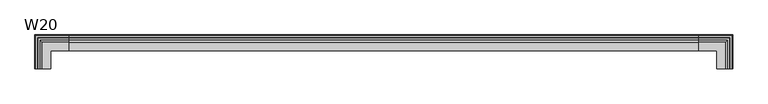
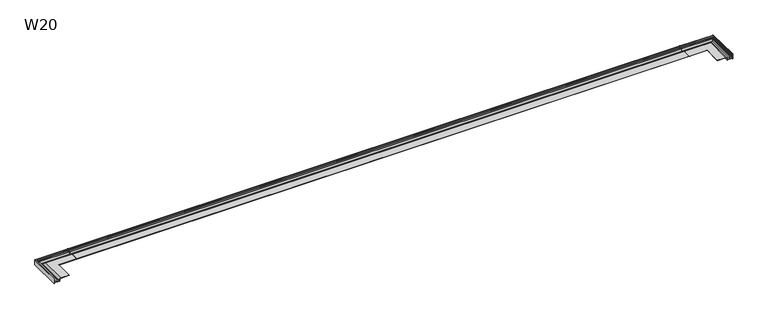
"""IFC4 building model written with IfcOpenShell, lengths in millimetres: proxy geometry, W20 Profil okapowy prosty : W20."""

from ifc_helpers import new_model, si_unit, point, frame, frame_2d, origin, place, context, project, spatial, polyline, circle_curve, ellipse_curve, trimmed, segment, composite_curve, outline, extrude, source, transform, mapped, element, save
from ifc_brep_helpers import plane_surface, cylinder_surface, revolved_surface, advanced_brep


def w20_fb63c288(model_context):
    return source(origin(), model_context, "Body", "SolidModel", [
        advanced_brep(
        [(4874.0, 0.1599998, -5.7558512), (4874.0, 0.1599998, -1.9994483), (4874.0, -1.2000002, -1.92), (4874.0, -63.8400002, -1.92), (4874.0, -63.8400002, 0.0), (4874.0, -1.2000002, 0.0), (4874.0, 12.3999998, -13.6), (4874.0, 12.3999998, -18.4), (4874.0, 13.9999998, -20.0), (4874.0, 31.1890625, -20.0), (4874.0, 31.1890625, 1.12487), (4874.0, 32.3890625, 1.12487), (4874.0, 32.3890625, -20.0), (4874.0, 51.1999998, -20.0), (4874.0, 51.1999998, -16.8), (4874.0, 48.6399998, -16.8), (4874.0, 48.6399998, -15.6), (4874.0, 51.1999998, -15.6), (4874.0, 51.1999998, -2.456), (4874.0, 48.6399998, -2.456), (4874.0, 48.6399998, -1.256), (4874.0, 51.1999998, -1.256), (4874.0, 51.1999998, 9.434066), (4874.0, 50.6947367, 10.0597224), (4874.0, 50.9473682, 11.2328282), (4874.0, 52.3999998, 9.434066), (4874.0, 52.3999998, -27.6828427), (4874.0, 51.1983148, -26.4811576), (4874.0, 51.1983148, -21.92), (4874.0, 11.6799998, -21.92), (4874.0, 11.6799998, -25.0068739), (4874.0, 10.4799998, -24.2657388), (4874.0, 10.4799998, -13.6), (4874.0, 1.1999998, -2.1692345), (4874.0, 1.1999998, -5.7558512), (5074.1599998, -200.0, -5.7558512), (5075.1999998, -200.0, -5.7558512), (5075.1999998, -200.0, -2.1692345), (5084.4799998, -200.0, -13.6), (5084.4799998, -200.0, -24.2657388), (5085.6799998, -200.0, -25.0068739), (5085.6799998, -200.0, -21.92), (5125.1983148, -200.0, -21.92), (5125.1983148, -200.0, -26.4811576), (5126.3999998, -200.0, -27.6828427), (5126.3999998, -200.0, 9.434066), (5124.9473682, -200.0, 11.2328282), (5124.6947367, -200.0, 10.0597224), (5125.1999998, -200.0, 9.434066), (5125.1999998, -200.0, -1.256), (5122.6399998, -200.0, -1.256), (5122.6399998, -200.0, -2.456), (5125.1999998, -200.0, -2.456), (5125.1999998, -200.0, -15.6), (5122.6399998, -200.0, -15.6), (5122.6399998, -200.0, -16.8), (5125.1999998, -200.0, -16.8), (5125.1999998, -200.0, -20.0), (5106.3890625, -200.0, -20.0), (5106.3890625, -200.0, 1.12487), (5105.1890625, -200.0, 1.12487), (5105.1890625, -200.0, -20.0), (5087.9999998, -200.0, -20.0), (5086.3999998, -200.0, -18.4), (5086.3999998, -200.0, -13.6), (5072.7999998, -200.0, 0.0), (5010.1599998, -200.0, 0.0), (5010.1599998, -200.0, -1.92), (5072.7999998, -200.0, -1.92), (5074.1599998, -200.0, -1.9994483), (5075.1999998, 1.1999998, -2.1692345), (5075.1999998, 1.1999998, -5.7558512), (5074.1599998, 0.1599998, -5.7558512), (5074.1599998, 0.1599998, -1.9994483), (5072.7999998, -1.2000002, -1.92), (5010.1599998, -63.8400002, -1.92), (5010.1599998, -63.8400002, 0.0), (5072.7999998, -1.2000002, 0.0), (5086.3999998, 12.3999998, -13.6), (5086.3999998, 12.3999998, -18.4), (5087.9999998, 13.9999998, -20.0), (5125.1999998, 51.1999998, -20.0), (5125.1999998, 51.1999998, -16.8), (5122.6399998, 48.6399998, -16.8), (5122.6399998, 48.6399998, -15.6), (5125.1999998, 51.1999998, -15.6), (5125.1999998, 51.1999998, -2.456), (5122.6399998, 48.6399998, -2.456), (5122.6399998, 48.6399998, -1.256), (5125.1999998, 51.1999998, -1.256), (5125.1999998, 51.1999998, 9.434066), (5124.6947367, 50.6947367, 10.0597224), (5124.9473682, 50.9473682, 11.2328282), (5126.3999998, 52.3999998, 9.434066), (5126.3999998, 52.3999998, -27.6828427), (5125.1983148, 51.1983148, -26.4811576), (5125.1983148, 51.1983148, -21.92), (5085.6799998, 11.6799998, -21.92), (5085.6799998, 11.6799998, -25.0068739), (5084.4799998, 10.4799998, -24.2657388), (5084.4799998, 10.4799998, -13.6), (5105.1890625, 31.1890625, -20.0), (5105.1890625, 31.1890625, 1.12487), (5106.3890625, 32.3890625, 1.12487), (5106.3890625, 32.3890625, -20.0)],
        [
            (0, 1),
            (1, 2, circle_curve(frame((4874.0, -1.2000002, -13.6), z_axis=(1.0, 0.0, 0.0), x_axis=(0.0, -1.0, 0.0)), 11.68)),
            (2, 3),
            (3, 4),
            (4, 5),
            (5, 6, circle_curve(frame((4874.0, -1.2000002, -13.6), z_axis=(-1.0, 0.0, 0.0), x_axis=(0.0, -1.0, 0.0)), 13.6)),
            (6, 7),
            (7, 8, circle_curve(frame((4874.0, 13.9999998, -18.4), z_axis=(1.0, 0.0, 0.0), x_axis=(0.0, -1.0, 0.0)), 1.6)),
            (8, 9),
            (9, 10),
            (10, 11),
            (11, 12),
            (12, 13),
            (13, 14),
            (14, 15),
            (15, 16),
            (16, 17),
            (17, 18),
            (18, 19),
            (19, 20),
            (20, 21),
            (21, 22),
            (22, 23, circle_curve(frame((4874.0, 50.5599998, 9.434066), z_axis=(1.0, 0.0, 0.0), x_axis=(0.0, -1.0, 0.0)), 0.64)),
            (23, 24),
            (24, 25, circle_curve(frame((4874.0, 50.5599998, 9.434066), z_axis=(-1.0, 0.0, 0.0), x_axis=(0.0, -1.0, 0.0)), 1.84)),
            (25, 26),
            (26, 27),
            (27, 28),
            (28, 29),
            (29, 30),
            (30, 31),
            (31, 32),
            (32, 33, circle_curve(frame((4874.0, -1.2000002, -13.6), z_axis=(1.0, 0.0, 0.0), x_axis=(0.0, -1.0, 0.0)), 11.68)),
            (33, 34),
            (34, 0),
            (35, 36),
            (36, 37),
            (37, 38, circle_curve(frame((5072.7999998, -200.0, -13.6), z_axis=(0.0, 1.0, 0.0), x_axis=(-1.0, 0.0, 0.0)), 11.68)),
            (38, 39),
            (39, 40),
            (40, 41),
            (41, 42),
            (42, 43),
            (43, 44),
            (44, 45),
            (45, 46, circle_curve(frame((5124.5599998, -200.0, 9.434066), z_axis=(0.0, -1.0, 0.0), x_axis=(-1.0, 0.0, 0.0)), 1.84)),
            (46, 47),
            (47, 48, circle_curve(frame((5124.5599998, -200.0, 9.434066), z_axis=(0.0, 1.0, 0.0), x_axis=(-1.0, 0.0, 0.0)), 0.64)),
            (48, 49),
            (49, 50),
            (50, 51),
            (51, 52),
            (52, 53),
            (53, 54),
            (54, 55),
            (55, 56),
            (56, 57),
            (57, 58),
            (58, 59),
            (59, 60),
            (60, 61),
            (61, 62),
            (62, 63, circle_curve(frame((5087.9999998, -200.0, -18.4), z_axis=(0.0, 1.0, 0.0), x_axis=(-1.0, 0.0, 0.0)), 1.6)),
            (63, 64),
            (64, 65, circle_curve(frame((5072.7999998, -200.0, -13.6), z_axis=(0.0, -1.0, 0.0), x_axis=(-1.0, 0.0, 0.0)), 13.6)),
            (65, 66),
            (66, 67),
            (67, 68),
            (68, 69, circle_curve(frame((5072.7999998, -200.0, -13.6), z_axis=(0.0, 1.0, 0.0), x_axis=(-1.0, 0.0, 0.0)), 11.68)),
            (69, 35),
            (33, 70),
            (70, 71),
            (71, 34),
            (71, 36),
            (35, 72),
            (72, 0),
            (72, 73),
            (73, 1),
            (70, 37),
            (69, 73),
            (73, 74, ellipse_curve(frame((5072.7999998, -1.2000002, -13.6), z_axis=(0.7071067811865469, -0.707106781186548, 0.0), x_axis=(0.7071067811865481, 0.7071067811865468, 0.0)), 16.5180144, 11.68)),
            (74, 2),
            (74, 68),
            (67, 75),
            (75, 3),
            (75, 76),
            (76, 4),
            (76, 66),
            (65, 77),
            (77, 5),
            (77, 78, ellipse_curve(frame((5072.7999998, -1.2000002, -13.6), z_axis=(-0.7071067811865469, 0.707106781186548, 0.0), x_axis=(-0.7071067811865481, -0.7071067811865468, 0.0)), 19.2333044, 13.6)),
            (78, 6),
            (78, 79),
            (79, 7),
            (79, 80, ellipse_curve(frame((5087.9999998, 13.9999998, -18.4), z_axis=(0.7071067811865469, -0.707106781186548, 0.0), x_axis=(0.7071067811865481, 0.7071067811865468, 0.0)), 2.2627417, 1.6)),
            (80, 8),
            (13, 81),
            (81, 82),
            (82, 14),
            (82, 56),
            (55, 83),
            (83, 15),
            (83, 84),
            (84, 16),
            (84, 54),
            (53, 85),
            (85, 17),
            (85, 86),
            (86, 18),
            (86, 52),
            (51, 87),
            (87, 19),
            (87, 88),
            (88, 20),
            (88, 50),
            (49, 89),
            (89, 21),
            (89, 90),
            (90, 22),
            (90, 91, ellipse_curve(frame((5124.5599998, 50.5599998, 9.434066), z_axis=(0.7071067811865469, -0.707106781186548, 0.0), x_axis=(0.7071067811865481, 0.7071067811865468, 0.0)), 0.9050967, 0.64)),
            (91, 23),
            (91, 92),
            (92, 24),
            (92, 93, ellipse_curve(frame((5124.5599998, 50.5599998, 9.434066), z_axis=(-0.7071067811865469, 0.707106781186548, 0.0), x_axis=(-0.7071067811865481, -0.7071067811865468, 0.0)), 2.602153, 1.84)),
            (93, 25),
            (93, 94),
            (94, 26),
            (94, 95),
            (95, 27),
            (95, 96),
            (96, 28),
            (96, 42),
            (41, 97),
            (97, 29),
            (97, 98),
            (98, 30),
            (98, 99),
            (99, 31),
            (99, 100),
            (100, 32),
            (100, 70, ellipse_curve(frame((5072.7999998, -1.2000002, -13.6), z_axis=(0.7071067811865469, -0.707106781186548, 0.0), x_axis=(0.7071067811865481, 0.7071067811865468, 0.0)), 16.5180144, 11.68)),
            (64, 78),
            (63, 79),
            (62, 80),
            (81, 57),
            (48, 90),
            (47, 91),
            (46, 92),
            (45, 93),
            (44, 94),
            (43, 95),
            (40, 98),
            (39, 99),
            (38, 100),
            (61, 101),
            (101, 9),
            (101, 102),
            (102, 10),
            (102, 60),
            (59, 103),
            (103, 11),
            (103, 104),
            (104, 12),
            (104, 58),
        ],
        [
            plane_surface(frame((4874.0, 0.0, 1.5283075), z_axis=(-1.0, 0.0, 0.0), x_axis=(0.0, 0.0, 1.0))),
            plane_surface(frame((5074.0, -200.0, 1.5283075), z_axis=(0.0, -1.0, 0.0), x_axis=(0.0, 0.0, 1.0))),
            plane_surface(frame((4874.0, 1.1999998, -2.1692345), z_axis=(0.0, 1.0, 0.0), x_axis=(1.0, 0.0, 0.0))),
            plane_surface(frame((4874.0, 1.1999998, -5.7558512), z_axis=(0.0, 0.0, -1.0), x_axis=(1.0, 0.0, 0.0))),
            plane_surface(frame((4874.0, 0.1599998, -5.7558512), z_axis=(0.0, -1.0, 0.0), x_axis=(1.0, 0.0, 0.0))),
            plane_surface(frame((5075.1999998, 1.1999998, -2.1692345), z_axis=(1.0, 0.0, 0.0), x_axis=(0.0, -1.0, 0.0))),
            plane_surface(frame((5074.1599998, 0.1599998, -5.7558512), z_axis=(-1.0, 0.0, 0.0), x_axis=(0.0, -1.0, 0.0))),
            revolved_surface(polyline([(5084.479999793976, -12.8800002, -13.6), (4874.0, -12.8800002, -13.6)]), (4874.0, -1.2000002, -13.6), (1.0, 0.0, 0.0)),
            plane_surface(frame((4874.0, -1.2000002, -1.92), z_axis=(0.0, 0.0, -1.0), x_axis=(1.0, 0.0, 0.0))),
            plane_surface(frame((4874.0, -63.8400002, -1.92), z_axis=(0.0, -1.0, 0.0), x_axis=(1.0, 0.0, 0.0))),
            plane_surface(frame((4874.0, -63.8400002, 0.0), z_axis=(0.0, 0.0, 1.0), x_axis=(1.0, 0.0, 0.0))),
            cylinder_surface(frame((4874.0, -1.2000002, -13.6), z_axis=(-1.0, 0.0, 0.0), x_axis=(0.0, -1.0, 0.0)), 13.6),
            plane_surface(frame((4874.0, 12.3999998, -13.6), z_axis=(0.0, 1.0, 0.0), x_axis=(1.0, 0.0, 0.0))),
            revolved_surface(polyline([(5089.599999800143, 12.3999998, -18.4), (4874.0, 12.3999998, -18.4)]), (4874.0, 13.9999998, -18.4), (1.0, 0.0, 0.0)),
            plane_surface(frame((4874.0, 51.1999998, -20.0), z_axis=(0.0, -1.0, 0.0), x_axis=(1.0, 0.0, 0.0))),
            plane_surface(frame((4874.0, 51.1999998, -16.8), z_axis=(0.0, 0.0, -1.0), x_axis=(1.0, 0.0, 0.0))),
            plane_surface(frame((4874.0, 48.6399998, -16.8), z_axis=(0.0, -1.0, 0.0), x_axis=(1.0, 0.0, 0.0))),
            plane_surface(frame((4874.0, 48.6399998, -15.6), z_axis=(0.0, 0.0, 1.0), x_axis=(1.0, 0.0, 0.0))),
            plane_surface(frame((4874.0, 51.1999998, -15.6), z_axis=(0.0, -1.0, 0.0), x_axis=(1.0, 0.0, 0.0))),
            plane_surface(frame((4874.0, 51.1999998, -2.456), z_axis=(0.0, 0.0, -1.0), x_axis=(1.0, 0.0, 0.0))),
            plane_surface(frame((4874.0, 48.6399998, -2.456), z_axis=(0.0, -1.0, 0.0), x_axis=(1.0, 0.0, 0.0))),
            plane_surface(frame((4874.0, 48.6399998, -1.256), z_axis=(0.0, 0.0, 1.0), x_axis=(1.0, 0.0, 0.0))),
            plane_surface(frame((4874.0, 51.1999998, -1.256), z_axis=(0.0, -1.0, 0.0), x_axis=(1.0, 0.0, 0.0))),
            revolved_surface(polyline([(5125.199999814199, 49.9199998, 9.434066), (4874.0, 49.9199998, 9.434066)]), (4874.0, 50.5599998, 9.434066), (1.0, 0.0, 0.0)),
            plane_surface(frame((4874.0, 50.6947367, 10.0597224), z_axis=(0.0, -0.977588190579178, 0.21052631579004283), x_axis=(1.0, 0.0, 0.0))),
            cylinder_surface(frame((4874.0, 50.5599998, 9.434066), z_axis=(-1.0, 0.0, 0.0), x_axis=(0.0, -1.0, 0.0)), 1.84),
            plane_surface(frame((4874.0, 52.3999998, 9.434066), z_axis=(0.0, 1.0, 0.0), x_axis=(1.0, 0.0, 0.0))),
            plane_surface(frame((4874.0, 52.3999998, -27.6828427), z_axis=(0.0, -0.7071067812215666, -0.7071067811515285), x_axis=(1.0, 0.0, 0.0))),
            plane_surface(frame((4874.0, 51.1983148, -26.4811576), z_axis=(0.0, -1.0, 0.0), x_axis=(1.0, 0.0, 0.0))),
            plane_surface(frame((4874.0, 51.1983148, -21.92), z_axis=(0.0, 0.0, -1.0), x_axis=(1.0, 0.0, 0.0))),
            plane_surface(frame((4874.0, 11.6799998, -21.92), z_axis=(0.0, 1.0, 0.0), x_axis=(1.0, 0.0, 0.0))),
            plane_surface(frame((4874.0, 11.6799998, -25.0068739), z_axis=(0.0, -0.5254716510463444, -0.8508111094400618), x_axis=(1.0, 0.0, 0.0))),
            plane_surface(frame((4874.0, 10.4799998, -24.2657388), z_axis=(0.0, -1.0, 0.0), x_axis=(1.0, 0.0, 0.0))),
            revolved_surface(polyline([(5084.4799998, -12.8800002, -13.6), (4874.0, -12.8800002, -13.6)]), (4874.0, -1.2000002, -13.6), (1.0, 0.0, 0.0)),
            revolved_surface(polyline([(5061.119999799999, -200.0, -13.6), (5061.119999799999, 10.479999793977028, -13.6)]), (5072.7999998, 0.0, -13.6), (0.0, -1.0, 0.0)),
            plane_surface(frame((5010.1599998, -63.8400002, -1.92), z_axis=(-1.0, 0.0, 0.0), x_axis=(0.0, -1.0, 0.0))),
            cylinder_surface(frame((5072.7999998, 0.0, -13.6), z_axis=(0.0, 1.0, 0.0), x_axis=(-1.0, 0.0, 0.0)), 13.6),
            plane_surface(frame((5086.3999998, 12.3999998, -13.6), z_axis=(1.0, 0.0, 0.0), x_axis=(0.0, -1.0, 0.0))),
            revolved_surface(polyline([(5086.3999998, -200.0, -18.4), (5086.3999998, 15.599999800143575, -18.4)]), (5087.9999998, 0.0, -18.4), (0.0, -1.0, 0.0)),
            plane_surface(frame((5125.1999998, 51.1999998, -20.0), z_axis=(-1.0, 0.0, 0.0), x_axis=(0.0, -1.0, 0.0))),
            plane_surface(frame((5122.6399998, 48.6399998, -16.8), z_axis=(-1.0, 0.0, 0.0), x_axis=(0.0, -1.0, 0.0))),
            plane_surface(frame((5125.1999998, 51.1999998, -15.6), z_axis=(-1.0, 0.0, 0.0), x_axis=(0.0, -1.0, 0.0))),
            plane_surface(frame((5122.6399998, 48.6399998, -2.456), z_axis=(-1.0, 0.0, 0.0), x_axis=(0.0, -1.0, 0.0))),
            plane_surface(frame((5125.1999998, 51.1999998, -1.256), z_axis=(-1.0, 0.0, 0.0), x_axis=(0.0, -1.0, 0.0))),
            revolved_surface(polyline([(5123.9199997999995, -200.0, 9.434066), (5123.9199997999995, 51.199999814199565, 9.434066)]), (5124.5599998, 0.0, 9.434066), (0.0, -1.0, 0.0)),
            plane_surface(frame((5124.6947367, 50.6947367, 10.0597224), z_axis=(-0.977588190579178, 0.0, 0.21052631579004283), x_axis=(0.0, -1.0, 0.0))),
            cylinder_surface(frame((5124.5599998, 0.0, 9.434066), z_axis=(0.0, 1.0, 0.0), x_axis=(-1.0, 0.0, 0.0)), 1.84),
            plane_surface(frame((5126.3999998, 52.3999998, 9.434066), z_axis=(1.0, 0.0, 0.0), x_axis=(0.0, -1.0, 0.0))),
            plane_surface(frame((5126.3999998, 52.3999998, -27.6828427), z_axis=(-0.7071067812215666, 0.0, -0.7071067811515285), x_axis=(0.0, -1.0, 0.0))),
            plane_surface(frame((5125.1983148, 51.1983148, -26.4811576), z_axis=(-1.0, 0.0, 0.0), x_axis=(0.0, -1.0, 0.0))),
            plane_surface(frame((5085.6799998, 11.6799998, -21.92), z_axis=(1.0, 0.0, 0.0), x_axis=(0.0, -1.0, 0.0))),
            plane_surface(frame((5085.6799998, 11.6799998, -25.0068739), z_axis=(-0.5254716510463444, 0.0, -0.8508111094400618), x_axis=(0.0, -1.0, 0.0))),
            plane_surface(frame((5084.4799998, 10.4799998, -24.2657388), z_axis=(-1.0, 0.0, 0.0), x_axis=(0.0, -1.0, 0.0))),
            revolved_surface(polyline([(5061.119999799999, -200.0, -13.6), (5061.119999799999, 10.4799998, -13.6)]), (5072.7999998, 0.0, -13.6), (0.0, -1.0, 0.0)),
            plane_surface(frame((4874.0, 13.9999998, -20.0), z_axis=(0.0, 0.0, 1.0), x_axis=(1.0, 0.0, 0.0))),
            plane_surface(frame((4874.0, 31.1890625, -20.0), z_axis=(0.0, -1.0, 0.0), x_axis=(1.0, 0.0, 0.0))),
            plane_surface(frame((4874.0, 31.1890625, 1.12487), z_axis=(0.0, 0.0, 1.0), x_axis=(1.0, 0.0, 0.0))),
            plane_surface(frame((4874.0, 32.3890625, 1.12487), z_axis=(0.0, 1.0, 0.0), x_axis=(1.0, 0.0, 0.0))),
            plane_surface(frame((4874.0, 32.3890625, -20.0), z_axis=(0.0, 0.0, 1.0), x_axis=(1.0, 0.0, 0.0))),
            plane_surface(frame((5105.1890625, 31.1890625, -20.0), z_axis=(-1.0, 0.0, 0.0), x_axis=(0.0, -1.0, 0.0))),
            plane_surface(frame((5106.3890625, 32.3890625, 1.12487), z_axis=(1.0, 0.0, 0.0), x_axis=(0.0, -1.0, 0.0))),
        ],
        [
            (0, [[1, 2, 3, 4, 5, 6, 7, 8, 9, 10, 11, 12, 13, 14, 15, 16, 17, 18, 19, 20, 21, 22, 23, 24, 25, 26, 27, 28, 29, 30, 31, 32, 33, 34, 35]]),
            (1, [[36, 37, 38, 39, 40, 41, 42, 43, 44, 45, 46, 47, 48, 49, 50, 51, 52, 53, 54, 55, 56, 57, 58, 59, 60, 61, 62, 63, 64, 65, 66, 67, 68, 69, 70]]),
            (2, [[-34, 71, 72, 73]]),
            (3, [[-35, -73, 74, -36, 75, 76]]),
            (4, [[-1, -76, 77, 78]]),
            (5, [[-72, 79, -37, -74]]),
            (6, [[-77, -75, -70, 80]]),
            (7, [[-2, -78, 81, 82]]),
            (8, [[-3, -82, 83, -68, 84, 85]]),
            (9, [[-4, -85, 86, 87]]),
            (10, [[-5, -87, 88, -66, 89, 90]]),
            (11, [[-6, -90, 91, 92]]),
            (12, [[-7, -92, 93, 94]]),
            (13, [[-8, -94, 95, 96]]),
            (14, [[-14, 97, 98, 99]]),
            (15, [[-15, -99, 100, -56, 101, 102]]),
            (16, [[-16, -102, 103, 104]]),
            (17, [[-17, -104, 105, -54, 106, 107]]),
            (18, [[-18, -107, 108, 109]]),
            (19, [[-19, -109, 110, -52, 111, 112]]),
            (20, [[-20, -112, 113, 114]]),
            (21, [[-21, -114, 115, -50, 116, 117]]),
            (22, [[-22, -117, 118, 119]]),
            (23, [[-23, -119, 120, 121]]),
            (24, [[-24, -121, 122, 123]]),
            (25, [[-25, -123, 124, 125]]),
            (26, [[-26, -125, 126, 127]]),
            (27, [[-27, -127, 128, 129]]),
            (28, [[-28, -129, 130, 131]]),
            (29, [[-29, -131, 132, -42, 133, 134]]),
            (30, [[-30, -134, 135, 136]]),
            (31, [[-31, -136, 137, 138]]),
            (32, [[-32, -138, 139, 140]]),
            (33, [[-33, -140, 141, -71]]),
            (34, [[-81, -80, -69, -83]]),
            (35, [[-86, -84, -67, -88]]),
            (36, [[-91, -89, -65, 142]]),
            (37, [[-93, -142, -64, 143]]),
            (38, [[-95, -143, -63, 144]]),
            (39, [[-98, 145, -57, -100]]),
            (40, [[-103, -101, -55, -105]]),
            (41, [[-108, -106, -53, -110]]),
            (42, [[-113, -111, -51, -115]]),
            (43, [[-118, -116, -49, 146]]),
            (44, [[-120, -146, -48, 147]]),
            (45, [[-122, -147, -47, 148]]),
            (46, [[-124, -148, -46, 149]]),
            (47, [[-126, -149, -45, 150]]),
            (48, [[-128, -150, -44, 151]]),
            (49, [[-130, -151, -43, -132]]),
            (50, [[-135, -133, -41, 152]]),
            (51, [[-137, -152, -40, 153]]),
            (52, [[-139, -153, -39, 154]]),
            (53, [[-141, -154, -38, -79]]),
            (54, [[-9, -96, -144, -62, 155, 156]]),
            (55, [[-10, -156, 157, 158]]),
            (56, [[-11, -158, 159, -60, 160, 161]]),
            (57, [[-12, -161, 162, 163]]),
            (58, [[-13, -163, 164, -58, -145, -97]]),
            (59, [[-157, -155, -61, -159]]),
            (60, [[-162, -160, -59, -164]]),
        ],
    ),
        advanced_brep(
        [(200.0, 0.1599998, -5.7558512), (200.0, 1.1999998, -5.7558512), (200.0, 1.1999998, -2.1692345), (200.0, 10.4799998, -13.6), (200.0, 10.4799998, -24.2657388), (200.0, 11.6799998, -25.0068739), (200.0, 11.6799998, -21.92), (200.0, 51.1983148, -21.92), (200.0, 51.1983148, -26.4811576), (200.0, 52.3999998, -27.6828427), (200.0, 52.3999998, 9.434066), (200.0, 50.9473682, 11.2328282), (200.0, 50.6947367, 10.0597224), (200.0, 51.1999998, 9.434066), (200.0, 51.1999998, -1.256), (200.0, 48.6399998, -1.256), (200.0, 48.6399998, -2.456), (200.0, 51.1999998, -2.456), (200.0, 51.1999998, -15.6), (200.0, 48.6399998, -15.6), (200.0, 48.6399998, -16.8), (200.0, 51.1999998, -16.8), (200.0, 51.1999998, -20.0), (200.0, 32.3890625, -20.0), (200.0, 32.3890625, 1.12487), (200.0, 31.1890625, 1.12487), (200.0, 31.1890625, -20.0), (200.0, 13.9999998, -20.0), (200.0, 12.3999998, -18.4), (200.0, 12.3999998, -13.6), (200.0, -1.2000002, 0.0), (200.0, -63.8400002, 0.0), (200.0, -63.8400002, -1.92), (200.0, -1.2000002, -1.92), (200.0, 0.1599998, -1.9994483), (-0.1599998, -200.0, -5.7558512), (-0.1599998, -200.0, -1.9994483), (1.2000002, -200.0, -1.92), (63.8400002, -200.0, -1.92), (63.8400002, -200.0, 0.0), (1.2000002, -200.0, 0.0), (-12.3999998, -200.0, -13.6), (-12.3999998, -200.0, -18.4), (-13.9999998, -200.0, -20.0), (-31.1890625, -200.0, -20.0), (-31.1890625, -200.0, 1.12487), (-32.3890625, -200.0, 1.12487), (-32.3890625, -200.0, -20.0), (-51.1999998, -200.0, -20.0), (-51.1999998, -200.0, -16.8), (-48.6399998, -200.0, -16.8), (-48.6399998, -200.0, -15.6), (-51.1999998, -200.0, -15.6), (-51.1999998, -200.0, -2.456), (-48.6399998, -200.0, -2.456), (-48.6399998, -200.0, -1.256), (-51.1999998, -200.0, -1.256), (-51.1999998, -200.0, 9.434066), (-50.6947367, -200.0, 10.0597224), (-50.9473682, -200.0, 11.2328282), (-52.3999998, -200.0, 9.434066), (-52.3999998, -200.0, -27.6828427), (-51.1983148, -200.0, -26.4811576), (-51.1983148, -200.0, -21.92), (-11.6799998, -200.0, -21.92), (-11.6799998, -200.0, -25.0068739), (-10.4799998, -200.0, -24.2657388), (-10.4799998, -200.0, -13.6), (-1.1999998, -200.0, -2.1692345), (-1.1999998, -200.0, -5.7558512), (-1.1999998, 1.1999998, -5.7558512), (-1.1999998, 1.1999998, -2.1692345), (-0.1599998, 0.1599998, -5.7558512), (-0.1599998, 0.1599998, -1.9994483), (1.2000002, -1.2000002, -1.92), (63.8400002, -63.8400002, -1.92), (63.8400002, -63.8400002, 0.0), (1.2000002, -1.2000002, 0.0), (-12.3999998, 12.3999998, -13.6), (-12.3999998, 12.3999998, -18.4), (-13.9999998, 13.9999998, -20.0), (-51.1999998, 51.1999998, -16.8), (-51.1999998, 51.1999998, -20.0), (-48.6399998, 48.6399998, -16.8), (-48.6399998, 48.6399998, -15.6), (-51.1999998, 51.1999998, -15.6), (-51.1999998, 51.1999998, -2.456), (-48.6399998, 48.6399998, -2.456), (-48.6399998, 48.6399998, -1.256), (-51.1999998, 51.1999998, -1.256), (-51.1999998, 51.1999998, 9.434066), (-50.6947367, 50.6947367, 10.0597224), (-50.9473682, 50.9473682, 11.2328282), (-52.3999998, 52.3999998, 9.434066), (-52.3999998, 52.3999998, -27.6828427), (-51.1983148, 51.1983148, -26.4811576), (-51.1983148, 51.1983148, -21.92), (-11.6799998, 11.6799998, -21.92), (-11.6799998, 11.6799998, -25.0068739), (-10.4799998, 10.4799998, -24.2657388), (-10.4799998, 10.4799998, -13.6), (-31.1890625, 31.1890625, -20.0), (-31.1890625, 31.1890625, 1.12487), (-32.3890625, 32.3890625, 1.12487), (-32.3890625, 32.3890625, -20.0)],
        [
            (0, 1),
            (1, 2),
            (2, 3, circle_curve(frame((200.0, -1.2000002, -13.6), z_axis=(-1.0, 0.0, 0.0), x_axis=(0.0, -1.0, 0.0)), 11.68)),
            (3, 4),
            (4, 5),
            (5, 6),
            (6, 7),
            (7, 8),
            (8, 9),
            (9, 10),
            (10, 11, circle_curve(frame((200.0, 50.5599998, 9.434066), z_axis=(1.0, 0.0, 0.0), x_axis=(0.0, -1.0, 0.0)), 1.84)),
            (11, 12),
            (12, 13, circle_curve(frame((200.0, 50.5599998, 9.434066), z_axis=(-1.0, 0.0, 0.0), x_axis=(0.0, -1.0, 0.0)), 0.64)),
            (13, 14),
            (14, 15),
            (15, 16),
            (16, 17),
            (17, 18),
            (18, 19),
            (19, 20),
            (20, 21),
            (21, 22),
            (22, 23),
            (23, 24),
            (24, 25),
            (25, 26),
            (26, 27),
            (27, 28, circle_curve(frame((200.0, 13.9999998, -18.4), z_axis=(-1.0, 0.0, 0.0), x_axis=(0.0, -1.0, 0.0)), 1.6)),
            (28, 29),
            (29, 30, circle_curve(frame((200.0, -1.2000002, -13.6), z_axis=(1.0, 0.0, 0.0), x_axis=(0.0, -1.0, 0.0)), 13.6)),
            (30, 31),
            (31, 32),
            (32, 33),
            (33, 34, circle_curve(frame((200.0, -1.2000002, -13.6), z_axis=(-1.0, 0.0, 0.0), x_axis=(0.0, -1.0, 0.0)), 11.68)),
            (34, 0),
            (35, 36),
            (36, 37, circle_curve(frame((1.2000002, -200.0, -13.6), z_axis=(0.0, 1.0, 0.0), x_axis=(1.0, 0.0, 0.0)), 11.68)),
            (37, 38),
            (38, 39),
            (39, 40),
            (40, 41, circle_curve(frame((1.2000002, -200.0, -13.6), z_axis=(0.0, -1.0, 0.0), x_axis=(1.0, 0.0, 0.0)), 13.6)),
            (41, 42),
            (42, 43, circle_curve(frame((-13.9999998, -200.0, -18.4), z_axis=(0.0, 1.0, 0.0), x_axis=(1.0, 0.0, 0.0)), 1.6)),
            (43, 44),
            (44, 45),
            (45, 46),
            (46, 47),
            (47, 48),
            (48, 49),
            (49, 50),
            (50, 51),
            (51, 52),
            (52, 53),
            (53, 54),
            (54, 55),
            (55, 56),
            (56, 57),
            (57, 58, circle_curve(frame((-50.5599998, -200.0, 9.434066), z_axis=(0.0, 1.0, 0.0), x_axis=(1.0, 0.0, 0.0)), 0.64)),
            (58, 59),
            (59, 60, circle_curve(frame((-50.5599998, -200.0, 9.434066), z_axis=(0.0, -1.0, 0.0), x_axis=(1.0, 0.0, 0.0)), 1.84)),
            (60, 61),
            (61, 62),
            (62, 63),
            (63, 64),
            (64, 65),
            (65, 66),
            (66, 67),
            (67, 68, circle_curve(frame((1.2000002, -200.0, -13.6), z_axis=(0.0, 1.0, 0.0), x_axis=(1.0, 0.0, 0.0)), 11.68)),
            (68, 69),
            (69, 35),
            (1, 70),
            (70, 71),
            (71, 2),
            (0, 72),
            (72, 35),
            (69, 70),
            (34, 73),
            (73, 72),
            (68, 71),
            (73, 36),
            (33, 74),
            (74, 73, ellipse_curve(frame((1.2000002, -1.2000002, -13.6), z_axis=(-0.7071067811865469, -0.707106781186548, 0.0), x_axis=(-0.7071067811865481, 0.7071067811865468, 0.0)), 16.5180144, 11.68)),
            (32, 75),
            (75, 38),
            (37, 74),
            (31, 76),
            (76, 75),
            (30, 77),
            (77, 40),
            (39, 76),
            (29, 78),
            (78, 77, ellipse_curve(frame((1.2000002, -1.2000002, -13.6), z_axis=(0.7071067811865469, 0.707106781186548, 0.0), x_axis=(0.7071067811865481, -0.7071067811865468, 0.0)), 19.2333044, 13.6)),
            (28, 79),
            (79, 78),
            (27, 80),
            (80, 79, ellipse_curve(frame((-13.9999998, 13.9999998, -18.4), z_axis=(-0.7071067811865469, -0.707106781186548, 0.0), x_axis=(-0.7071067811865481, 0.7071067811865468, 0.0)), 2.2627417, 1.6)),
            (21, 81),
            (81, 82),
            (82, 22),
            (20, 83),
            (83, 50),
            (49, 81),
            (19, 84),
            (84, 83),
            (18, 85),
            (85, 52),
            (51, 84),
            (17, 86),
            (86, 85),
            (16, 87),
            (87, 54),
            (53, 86),
            (15, 88),
            (88, 87),
            (14, 89),
            (89, 56),
            (55, 88),
            (13, 90),
            (90, 89),
            (12, 91),
            (91, 90, ellipse_curve(frame((-50.5599998, 50.5599998, 9.434066), z_axis=(-0.7071067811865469, -0.707106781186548, 0.0), x_axis=(-0.7071067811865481, 0.7071067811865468, 0.0)), 0.9050967, 0.64)),
            (11, 92),
            (92, 91),
            (10, 93),
            (93, 92, ellipse_curve(frame((-50.5599998, 50.5599998, 9.434066), z_axis=(0.7071067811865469, 0.707106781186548, 0.0), x_axis=(0.7071067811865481, -0.7071067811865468, 0.0)), 2.602153, 1.84)),
            (9, 94),
            (94, 93),
            (8, 95),
            (95, 94),
            (7, 96),
            (96, 95),
            (6, 97),
            (97, 64),
            (63, 96),
            (5, 98),
            (98, 97),
            (4, 99),
            (99, 98),
            (3, 100),
            (100, 99),
            (71, 100, ellipse_curve(frame((1.2000002, -1.2000002, -13.6), z_axis=(-0.7071067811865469, -0.707106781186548, 0.0), x_axis=(-0.7071067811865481, 0.7071067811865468, 0.0)), 16.5180144, 11.68)),
            (78, 41),
            (79, 42),
            (80, 43),
            (48, 82),
            (90, 57),
            (91, 58),
            (92, 59),
            (93, 60),
            (94, 61),
            (95, 62),
            (98, 65),
            (99, 66),
            (100, 67),
            (26, 101),
            (101, 44),
            (25, 102),
            (102, 101),
            (24, 103),
            (103, 46),
            (45, 102),
            (23, 104),
            (104, 103),
            (47, 104),
        ],
        [
            plane_surface(frame((200.0, 0.0, 1.5283075), z_axis=(1.0, 0.0, 0.0), x_axis=(0.0, 0.0, 1.0))),
            plane_surface(frame((0.0, -200.0, 1.5283075), z_axis=(0.0, -1.0, 0.0), x_axis=(0.0, 0.0, 1.0))),
            plane_surface(frame((200.0, 1.1999998, -2.1692345), z_axis=(0.0, 1.0, 0.0), x_axis=(-1.0, 0.0, 0.0))),
            plane_surface(frame((200.0, 1.1999998, -5.7558512), z_axis=(0.0, 0.0, -1.0), x_axis=(-1.0, 0.0, 0.0))),
            plane_surface(frame((200.0, 0.1599998, -5.7558512), z_axis=(0.0, -1.0, 0.0), x_axis=(-1.0, 0.0, 0.0))),
            plane_surface(frame((-1.1999998, 1.1999998, -2.1692345), z_axis=(-1.0, 0.0, 0.0), x_axis=(0.0, -1.0, 0.0))),
            plane_surface(frame((-0.1599998, 0.1599998, -5.7558512), z_axis=(1.0, 0.0, 0.0), x_axis=(0.0, -1.0, 0.0))),
            revolved_surface(polyline([(-10.479999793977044, -12.8800002, -13.6), (200.0, -12.8800002, -13.6)]), (200.0, -1.2000002, -13.6), (-1.0, 0.0, 0.0)),
            plane_surface(frame((200.0, -1.2000002, -1.92), z_axis=(0.0, 0.0, -1.0), x_axis=(-1.0, 0.0, 0.0))),
            plane_surface(frame((200.0, -63.8400002, -1.92), z_axis=(0.0, -1.0, 0.0), x_axis=(-1.0, 0.0, 0.0))),
            plane_surface(frame((200.0, -63.8400002, 0.0), z_axis=(0.0, 0.0, 1.0), x_axis=(-1.0, 0.0, 0.0))),
            cylinder_surface(frame((200.0, -1.2000002, -13.6), z_axis=(1.0, 0.0, 0.0), x_axis=(0.0, -1.0, 0.0)), 13.6),
            plane_surface(frame((200.0, 12.3999998, -13.6), z_axis=(0.0, 1.0, 0.0), x_axis=(-1.0, 0.0, 0.0))),
            revolved_surface(polyline([(-15.599999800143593, 12.3999998, -18.4), (200.0, 12.3999998, -18.4)]), (200.0, 13.9999998, -18.4), (-1.0, 0.0, 0.0)),
            plane_surface(frame((200.0, 51.1999998, -20.0), z_axis=(0.0, -1.0, 0.0), x_axis=(-1.0, 0.0, 0.0))),
            plane_surface(frame((200.0, 51.1999998, -16.8), z_axis=(0.0, 0.0, -1.0), x_axis=(-1.0, 0.0, 0.0))),
            plane_surface(frame((200.0, 48.6399998, -16.8), z_axis=(0.0, -1.0, 0.0), x_axis=(-1.0, 0.0, 0.0))),
            plane_surface(frame((200.0, 48.6399998, -15.6), z_axis=(0.0, 0.0, 1.0), x_axis=(-1.0, 0.0, 0.0))),
            plane_surface(frame((200.0, 51.1999998, -15.6), z_axis=(0.0, -1.0, 0.0), x_axis=(-1.0, 0.0, 0.0))),
            plane_surface(frame((200.0, 51.1999998, -2.456), z_axis=(0.0, 0.0, -1.0), x_axis=(-1.0, 0.0, 0.0))),
            plane_surface(frame((200.0, 48.6399998, -2.456), z_axis=(0.0, -1.0, 0.0), x_axis=(-1.0, 0.0, 0.0))),
            plane_surface(frame((200.0, 48.6399998, -1.256), z_axis=(0.0, 0.0, 1.0), x_axis=(-1.0, 0.0, 0.0))),
            plane_surface(frame((200.0, 51.1999998, -1.256), z_axis=(0.0, -1.0, 0.0), x_axis=(-1.0, 0.0, 0.0))),
            revolved_surface(polyline([(-51.19999981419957, 49.9199998, 9.434066), (200.0, 49.9199998, 9.434066)]), (200.0, 50.5599998, 9.434066), (-1.0, 0.0, 0.0)),
            plane_surface(frame((200.0, 50.6947367, 10.0597224), z_axis=(0.0, -0.977588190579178, 0.21052631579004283), x_axis=(-1.0, 0.0, 0.0))),
            cylinder_surface(frame((200.0, 50.5599998, 9.434066), z_axis=(1.0, 0.0, 0.0), x_axis=(0.0, -1.0, 0.0)), 1.84),
            plane_surface(frame((200.0, 52.3999998, 9.434066), z_axis=(0.0, 1.0, 0.0), x_axis=(-1.0, 0.0, 0.0))),
            plane_surface(frame((200.0, 52.3999998, -27.6828427), z_axis=(0.0, -0.7071067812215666, -0.7071067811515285), x_axis=(-1.0, 0.0, 0.0))),
            plane_surface(frame((200.0, 51.1983148, -26.4811576), z_axis=(0.0, -1.0, 0.0), x_axis=(-1.0, 0.0, 0.0))),
            plane_surface(frame((200.0, 51.1983148, -21.92), z_axis=(0.0, 0.0, -1.0), x_axis=(-1.0, 0.0, 0.0))),
            plane_surface(frame((200.0, 11.6799998, -21.92), z_axis=(0.0, 1.0, 0.0), x_axis=(-1.0, 0.0, 0.0))),
            plane_surface(frame((200.0, 11.6799998, -25.0068739), z_axis=(0.0, -0.5254716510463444, -0.8508111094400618), x_axis=(-1.0, 0.0, 0.0))),
            plane_surface(frame((200.0, 10.4799998, -24.2657388), z_axis=(0.0, -1.0, 0.0), x_axis=(-1.0, 0.0, 0.0))),
            revolved_surface(polyline([(-10.479999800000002, -12.8800002, -13.6), (200.0, -12.8800002, -13.6)]), (200.0, -1.2000002, -13.6), (-1.0, 0.0, 0.0)),
            revolved_surface(polyline([(12.8800002, -200.0, -13.6), (12.8800002, 10.479999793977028, -13.6)]), (1.2000002, 0.0, -13.6), (0.0, -1.0, 0.0)),
            plane_surface(frame((63.8400002, -63.8400002, -1.92), z_axis=(1.0, 0.0, 0.0), x_axis=(0.0, -1.0, 0.0))),
            cylinder_surface(frame((1.2000002, 0.0, -13.6), z_axis=(0.0, 1.0, 0.0), x_axis=(1.0, 0.0, 0.0)), 13.6),
            plane_surface(frame((-12.3999998, 12.3999998, -13.6), z_axis=(-1.0, 0.0, 0.0), x_axis=(0.0, -1.0, 0.0))),
            revolved_surface(polyline([(-12.3999998, -200.0, -18.4), (-12.3999998, 15.599999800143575, -18.4)]), (-13.9999998, 0.0, -18.4), (0.0, -1.0, 0.0)),
            plane_surface(frame((-51.1999998, 51.1999998, -20.0), z_axis=(1.0, 0.0, 0.0), x_axis=(0.0, -1.0, 0.0))),
            plane_surface(frame((-48.6399998, 48.6399998, -16.8), z_axis=(1.0, 0.0, 0.0), x_axis=(0.0, -1.0, 0.0))),
            plane_surface(frame((-51.1999998, 51.1999998, -15.6), z_axis=(1.0, 0.0, 0.0), x_axis=(0.0, -1.0, 0.0))),
            plane_surface(frame((-48.6399998, 48.6399998, -2.456), z_axis=(1.0, 0.0, 0.0), x_axis=(0.0, -1.0, 0.0))),
            plane_surface(frame((-51.1999998, 51.1999998, -1.256), z_axis=(1.0, 0.0, 0.0), x_axis=(0.0, -1.0, 0.0))),
            revolved_surface(polyline([(-49.9199998, -200.0, 9.434066), (-49.9199998, 51.199999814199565, 9.434066)]), (-50.5599998, 0.0, 9.434066), (0.0, -1.0, 0.0)),
            plane_surface(frame((-50.6947367, 50.6947367, 10.0597224), z_axis=(0.977588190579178, 0.0, 0.21052631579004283), x_axis=(0.0, -1.0, 0.0))),
            cylinder_surface(frame((-50.5599998, 0.0, 9.434066), z_axis=(0.0, 1.0, 0.0), x_axis=(1.0, 0.0, 0.0)), 1.84),
            plane_surface(frame((-52.3999998, 52.3999998, 9.434066), z_axis=(-1.0, 0.0, 0.0), x_axis=(0.0, -1.0, 0.0))),
            plane_surface(frame((-52.3999998, 52.3999998, -27.6828427), z_axis=(0.7071067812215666, 0.0, -0.7071067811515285), x_axis=(0.0, -1.0, 0.0))),
            plane_surface(frame((-51.1983148, 51.1983148, -26.4811576), z_axis=(1.0, 0.0, 0.0), x_axis=(0.0, -1.0, 0.0))),
            plane_surface(frame((-11.6799998, 11.6799998, -21.92), z_axis=(-1.0, 0.0, 0.0), x_axis=(0.0, -1.0, 0.0))),
            plane_surface(frame((-11.6799998, 11.6799998, -25.0068739), z_axis=(0.5254716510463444, 0.0, -0.8508111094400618), x_axis=(0.0, -1.0, 0.0))),
            plane_surface(frame((-10.4799998, 10.4799998, -24.2657388), z_axis=(1.0, 0.0, 0.0), x_axis=(0.0, -1.0, 0.0))),
            revolved_surface(polyline([(12.8800002, -200.0, -13.6), (12.8800002, 10.4799998, -13.6)]), (1.2000002, 0.0, -13.6), (0.0, -1.0, 0.0)),
            plane_surface(frame((200.0, 13.9999998, -20.0), z_axis=(0.0, 0.0, 1.0), x_axis=(-1.0, 0.0, 0.0))),
            plane_surface(frame((200.0, 31.1890625, -20.0), z_axis=(0.0, -1.0, 0.0), x_axis=(-1.0, 0.0, 0.0))),
            plane_surface(frame((200.0, 31.1890625, 1.12487), z_axis=(0.0, 0.0, 1.0), x_axis=(-1.0, 0.0, 0.0))),
            plane_surface(frame((200.0, 32.3890625, 1.12487), z_axis=(0.0, 1.0, 0.0), x_axis=(-1.0, 0.0, 0.0))),
            plane_surface(frame((200.0, 32.3890625, -20.0), z_axis=(0.0, 0.0, 1.0), x_axis=(-1.0, 0.0, 0.0))),
            plane_surface(frame((-31.1890625, 31.1890625, -20.0), z_axis=(1.0, 0.0, 0.0), x_axis=(0.0, -1.0, 0.0))),
            plane_surface(frame((-32.3890625, 32.3890625, 1.12487), z_axis=(-1.0, 0.0, 0.0), x_axis=(0.0, -1.0, 0.0))),
        ],
        [
            (0, [[1, 2, 3, 4, 5, 6, 7, 8, 9, 10, 11, 12, 13, 14, 15, 16, 17, 18, 19, 20, 21, 22, 23, 24, 25, 26, 27, 28, 29, 30, 31, 32, 33, 34, 35]]),
            (1, [[36, 37, 38, 39, 40, 41, 42, 43, 44, 45, 46, 47, 48, 49, 50, 51, 52, 53, 54, 55, 56, 57, 58, 59, 60, 61, 62, 63, 64, 65, 66, 67, 68, 69, 70]]),
            (2, [[71, 72, 73, -2]]),
            (3, [[74, 75, -70, 76, -71, -1]]),
            (4, [[77, 78, -74, -35]]),
            (5, [[-76, -69, 79, -72]]),
            (6, [[80, -36, -75, -78]]),
            (7, [[81, 82, -77, -34]]),
            (8, [[83, 84, -38, 85, -81, -33]]),
            (9, [[86, 87, -83, -32]]),
            (10, [[88, 89, -40, 90, -86, -31]]),
            (11, [[91, 92, -88, -30]]),
            (12, [[93, 94, -91, -29]]),
            (13, [[95, 96, -93, -28]]),
            (14, [[97, 98, 99, -22]]),
            (15, [[100, 101, -50, 102, -97, -21]]),
            (16, [[103, 104, -100, -20]]),
            (17, [[105, 106, -52, 107, -103, -19]]),
            (18, [[108, 109, -105, -18]]),
            (19, [[110, 111, -54, 112, -108, -17]]),
            (20, [[113, 114, -110, -16]]),
            (21, [[115, 116, -56, 117, -113, -15]]),
            (22, [[118, 119, -115, -14]]),
            (23, [[120, 121, -118, -13]]),
            (24, [[122, 123, -120, -12]]),
            (25, [[124, 125, -122, -11]]),
            (26, [[126, 127, -124, -10]]),
            (27, [[128, 129, -126, -9]]),
            (28, [[130, 131, -128, -8]]),
            (29, [[132, 133, -64, 134, -130, -7]]),
            (30, [[135, 136, -132, -6]]),
            (31, [[137, 138, -135, -5]]),
            (32, [[139, 140, -137, -4]]),
            (33, [[-73, 141, -139, -3]]),
            (34, [[-85, -37, -80, -82]]),
            (35, [[-90, -39, -84, -87]]),
            (36, [[142, -41, -89, -92]]),
            (37, [[143, -42, -142, -94]]),
            (38, [[144, -43, -143, -96]]),
            (39, [[-102, -49, 145, -98]]),
            (40, [[-107, -51, -101, -104]]),
            (41, [[-112, -53, -106, -109]]),
            (42, [[-117, -55, -111, -114]]),
            (43, [[146, -57, -116, -119]]),
            (44, [[147, -58, -146, -121]]),
            (45, [[148, -59, -147, -123]]),
            (46, [[149, -60, -148, -125]]),
            (47, [[150, -61, -149, -127]]),
            (48, [[151, -62, -150, -129]]),
            (49, [[-134, -63, -151, -131]]),
            (50, [[152, -65, -133, -136]]),
            (51, [[153, -66, -152, -138]]),
            (52, [[154, -67, -153, -140]]),
            (53, [[-79, -68, -154, -141]]),
            (54, [[155, 156, -44, -144, -95, -27]]),
            (55, [[157, 158, -155, -26]]),
            (56, [[159, 160, -46, 161, -157, -25]]),
            (57, [[162, 163, -159, -24]]),
            (58, [[-99, -145, -48, 164, -162, -23]]),
            (59, [[-161, -45, -156, -158]]),
            (60, [[-164, -47, -160, -163]]),
        ],
    ),
        extrude(outline(composite_curve([segment(polyline([(0.1599998, -5.7558512), (0.1599998, -1.9994483)]), True, "CONTINUOUS"), segment(trimmed(circle_curve(frame_2d((-1.2000002, -13.6)), 11.68), [point((0.1599998, -1.9994483))], [point((-1.2000002, -1.92))], True, "CARTESIAN"), True, "CONTINUOUS"), segment(polyline([(-1.2000002, -1.92), (-63.8400002, -1.92), (-63.8400002, 0.0), (-1.2000002, 0.0)]), True, "CONTINUOUS"), segment(trimmed(circle_curve(frame_2d((-1.2000002, -13.6)), 13.6), [point((-1.2000002, 0.0))], [point((12.3999998, -13.6))], False, "CARTESIAN"), True, "CONTINUOUS"), segment(polyline([(12.3999998, -13.6), (12.3999998, -18.4)]), True, "CONTINUOUS"), segment(trimmed(circle_curve(frame_2d((13.9999998, -18.4)), 1.6), [point((12.3999998, -18.4))], [point((13.9999998, -20.0))], True, "CARTESIAN"), True, "CONTINUOUS"), segment(polyline([(13.9999998, -20.0), (31.1890625, -20.0), (31.1890625, 1.12487), (32.3890625, 1.12487), (32.3890625, -20.0), (51.1999998, -20.0), (51.1999998, -16.8), (48.6399998, -16.8), (48.6399998, -15.6), (51.1999998, -15.6), (51.1999998, -2.456), (48.6399998, -2.456), (48.6399998, -1.256), (51.1999998, -1.256), (51.1999998, 9.434066)]), True, "CONTINUOUS"), segment(trimmed(circle_curve(frame_2d((50.5599998, 9.434066)), 0.64), [point((51.1999998, 9.434066))], [point((50.6947367, 10.0597224))], True, "CARTESIAN"), True, "CONTINUOUS"), segment(polyline([(50.6947367, 10.0597224), (50.9473682, 11.2328282)]), True, "CONTINUOUS"), segment(trimmed(circle_curve(frame_2d((50.5599998, 9.434066)), 1.84), [point((50.9473682, 11.2328282))], [point((52.3999998, 9.434066))], False, "CARTESIAN"), True, "CONTINUOUS"), segment(polyline([(52.3999998, 9.434066), (52.3999998, -27.6828427), (51.1983148, -26.4811576), (51.1983148, -21.92), (11.6799998, -21.92), (11.6799998, -25.0068739), (10.4799998, -24.2657388), (10.4799998, -13.6)]), True, "CONTINUOUS"), segment(trimmed(circle_curve(frame_2d((-1.2000002, -13.6)), 11.68), [point((10.4799998, -13.6))], [point((1.1999998, -2.1692345))], True, "CARTESIAN"), True, "CONTINUOUS"), segment(polyline([(1.1999998, -2.1692345), (1.1999998, -5.7558512), (0.1599998, -5.7558512)]), True, "CONTINUOUS")], self_intersect=False)), frame((200.0, 0.0, 0.0), z_axis=(1.0, 0.0, 0.0), x_axis=(0.0, 1.0, 0.0)), (0.0, 0.0, 1.0), 4674.0),
    ])


if __name__ == "__main__":
    model = new_model("IFC4")
    model_context = context("Model", 3, world=origin())
    ifc_project = project(units=[si_unit("LENGTHUNIT", "METRE", prefix="MILLI")], contexts=[model_context])
    site = spatial("IfcSite", under=ifc_project)
    building = spatial("IfcBuilding", under=site)
    placement = place(None, origin())
    w20_shape = w20_fb63c288(model_context)
    element("IfcBuildingElementProxy", 1, Name="W20 Profil okapowy prosty : W20", ObjectType="W20 Profil okapowy prosty : W20", at=placement, inside=building, context=model_context, shape_type="MappedRepresentation", body=[
        mapped(w20_shape, transform((0.0, 0.0, 0.0), x_axis=(1.0, 0.0, 0.0), y_axis=(0.0, 1.0, 0.0), z_axis=(0.0, 0.0, 1.0))),
    ])
    save(model, "model.ifc")
